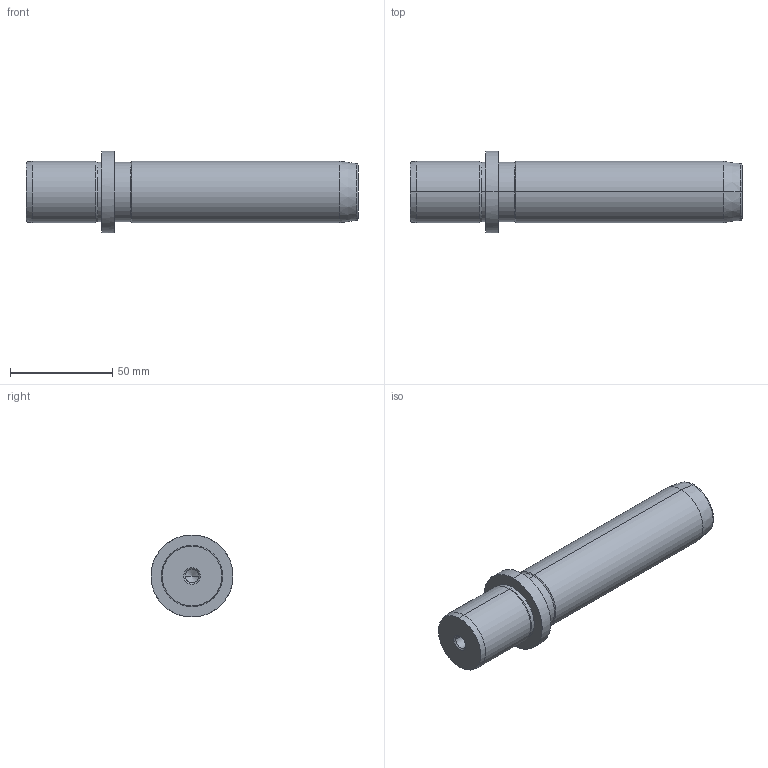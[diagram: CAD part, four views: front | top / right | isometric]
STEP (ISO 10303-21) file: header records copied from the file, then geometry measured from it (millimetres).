
FILE_DESCRIPTION(('CATIA V5 STEP Exchange'),'2;1');
FILE_NAME('C:\Users\Utente\Desktop\IO LAVORO\3D X SITO CF\X SITO\718\718-30x125.stp','2021-01-02T13:17:38+00:00',('none'),('none'),'CATIA Version 5 Release 20 GA (IN-10)','CATIA V5 STEP AP203','none');
FILE_SCHEMA(('CONFIG_CONTROL_DESIGN'));
Length unit declared in the file: millimetre
Products named in the file (1): 718-30x125
Bounding box: 162 x 40 x 40 mm (x, y, z)
Volume: 115000.7 mm3; surface area: 18849.1 mm2
Topology: 1 solids, 1 shells, 36 faces, 100 edges, 66 vertices
Faces by surface type: cone 16, cylinder 14, plane 4, torus 2
Entity records: 1291 total; most frequent: CARTESIAN_POINT 362, ORIENTED_EDGE 192, DIRECTION 157, EDGE_CURVE 96, AXIS2_PLACEMENT_3D 92, VERTEX_POINT 66, CIRCLE 55, EDGE_LOOP 40
